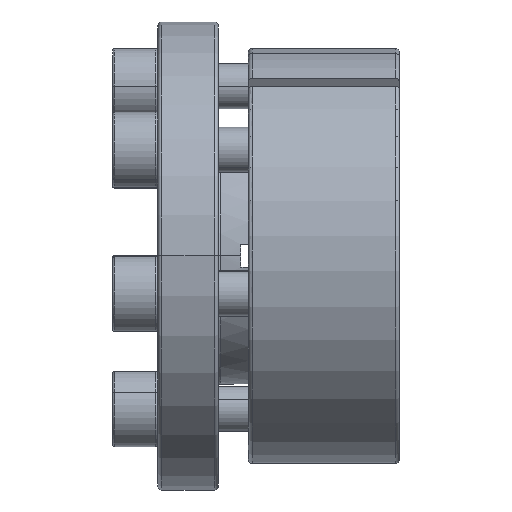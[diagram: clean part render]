
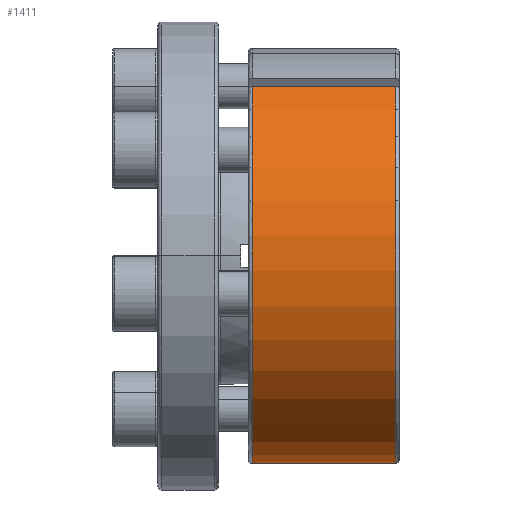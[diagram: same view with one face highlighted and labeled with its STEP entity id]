
A CAD part, top view. The second image highlights one B-rep face of the part: STEP entity #1411.
In plain terms, the highlighted cylindrical face has radius 27.5 mm (diameter 55 mm), a partial arc.
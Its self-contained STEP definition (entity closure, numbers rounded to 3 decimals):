
#868 = CARTESIAN_POINT ( 'NONE',  ( -9.834, 0.666, 0. ) ) ;
#869 = DIRECTION ( 'NONE',  ( -1., 0., 0. ) ) ;
#870 = DIRECTION ( 'NONE',  ( 0., -0.975, -0.223 ) ) ;
#873 = CARTESIAN_POINT ( 'NONE',  ( 9.166, 0.666, 0. ) ) ;
#874 = DIRECTION ( 'NONE',  ( -1., 0., 0. ) ) ;
#875 = DIRECTION ( 'NONE',  ( 0., -0.975, -0.223 ) ) ;
#1411 = ADVANCED_FACE ( 'NONE', ( #7501 ), #7513, .T. ) ;
#1567 = DIRECTION ( 'NONE',  ( -1., 0., 0. ) ) ;
#1568 = CARTESIAN_POINT ( 'NONE',  ( -11.234, -26.144, -6.119 ) ) ;
#1703 = EDGE_CURVE ( 'NONE', #3575, #3577, #7714, .T. ) ;
#1733 = EDGE_CURVE ( 'NONE', #4289, #3575, #7753, .T. ) ;
#1736 = EDGE_CURVE ( 'NONE', #4305, #3577, #7756, .T. ) ;
#1895 = DIRECTION ( 'NONE',  ( 1., 0., 0. ) ) ;
#1908 = CARTESIAN_POINT ( 'NONE',  ( -11.234, 23.126, 15.868 ) ) ;
#2739 = LINE ( 'NONE', #1568, #2743 ) ;
#2743 = VECTOR ( 'NONE', #1567, 1000. ) ;
#3575 = VERTEX_POINT ( 'NONE', #8529 ) ;
#3577 = VERTEX_POINT ( 'NONE', #8531 ) ;
#3744 = EDGE_LOOP ( 'NONE', ( #8130, #8131, #8132, #8133 ) ) ;
#4289 = VERTEX_POINT ( 'NONE', #8568 ) ;
#4305 = VERTEX_POINT ( 'NONE', #8584 ) ;
#4805 = EDGE_CURVE ( 'NONE', #4305, #4289, #2739, .T. ) ;
#5643 = AXIS2_PLACEMENT_3D ( 'NONE', #8021, #8019, #8017 ) ;
#5740 = AXIS2_PLACEMENT_3D ( 'NONE', #868, #869, #870 ) ;
#5741 = AXIS2_PLACEMENT_3D ( 'NONE', #873, #874, #875 ) ;
#7501 = FACE_OUTER_BOUND ( 'NONE', #3744, .T. ) ;
#7513 = CYLINDRICAL_SURFACE ( 'NONE', #5643, 27.5 ) ;
#7714 = LINE ( 'NONE', #1908, #7717 ) ;
#7717 = VECTOR ( 'NONE', #1895, 1000. ) ;
#7753 = CIRCLE ( 'NONE', #5740, 27.5 ) ;
#7756 = CIRCLE ( 'NONE', #5741, 27.5 ) ;
#8017 = DIRECTION ( 'NONE',  ( 0., -0.975, -0.223 ) ) ;
#8019 = DIRECTION ( 'NONE',  ( -1., 0., 0. ) ) ;
#8021 = CARTESIAN_POINT ( 'NONE',  ( -11.234, 0.666, 0. ) ) ;
#8130 = ORIENTED_EDGE ( 'NONE', *, *, #4805, .F. ) ;
#8131 = ORIENTED_EDGE ( 'NONE', *, *, #1736, .T. ) ;
#8132 = ORIENTED_EDGE ( 'NONE', *, *, #1703, .F. ) ;
#8133 = ORIENTED_EDGE ( 'NONE', *, *, #1733, .F. ) ;
#8529 = CARTESIAN_POINT ( 'NONE',  ( -9.834, 23.126, 15.868 ) ) ;
#8531 = CARTESIAN_POINT ( 'NONE',  ( 9.166, 23.126, 15.868 ) ) ;
#8568 = CARTESIAN_POINT ( 'NONE',  ( -9.834, -26.144, -6.119 ) ) ;
#8584 = CARTESIAN_POINT ( 'NONE',  ( 9.166, -26.144, -6.119 ) ) ;
